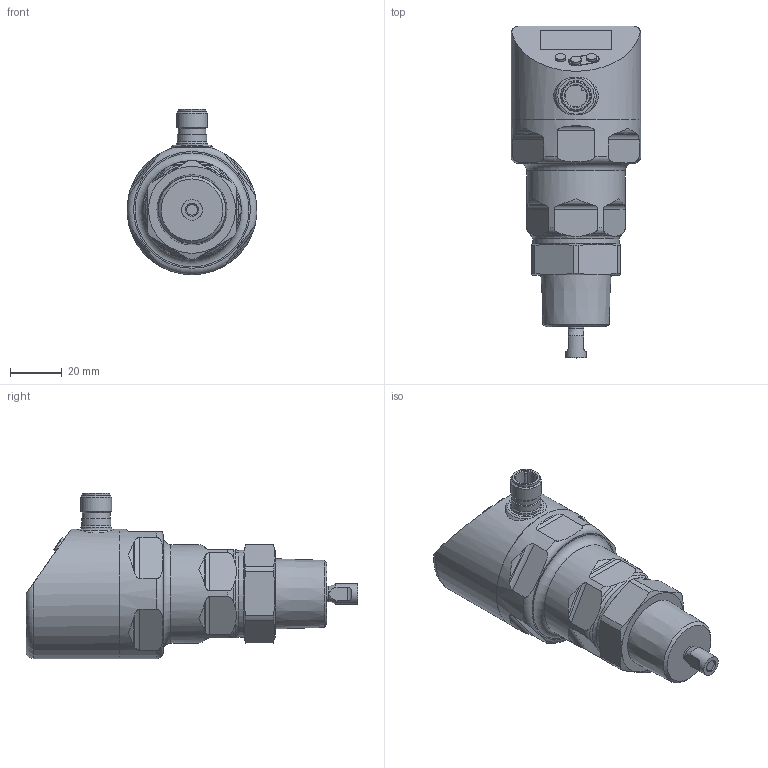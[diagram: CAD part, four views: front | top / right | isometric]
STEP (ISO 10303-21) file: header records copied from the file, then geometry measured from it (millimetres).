
FILE_DESCRIPTION( ( 'STEP AP203' ), ' ' );
FILE_NAME( 'p:/temp/worker_425/4668_2908/app_42_02017081510413309207430192d056f_000000_00_00_000000/format_1/LR2350.stp', '2017-08-15T08:41:35', ( '' ), ( '' ), ' ', 'PARTsolutions', ' ' );
FILE_SCHEMA( ( 'CONFIG_CONTROL_DESIGN' ) );
Length unit declared in the file: millimetre
Products named in the file (1): _LR2350
Bounding box: 50.1 x 128.25 x 63.9 mm (x, y, z)
Volume: 152928.4 mm3; surface area: 19010.6 mm2
Topology: 1 solids, 1 shells, 169 faces, 447 edges, 296 vertices
Faces by surface type: plane 82, cylinder 55, cone 20, torus 12
Full cylindrical faces by diameter (mm): 4.1 x3, 6 x1, 8 x1, 8.45 x1, 10.6 x1, 10.8 x1, 11.3 x1, 12 x2, 33.6 x1, 38 x1, 50 x1, 50.1 x1
Entity records: 6151 total; most frequent: CARTESIAN_POINT 2186, ORIENTED_EDGE 818, DIRECTION 769, EDGE_CURVE 409, AXIS2_PLACEMENT_3D 307, VERTEX_POINT 286, EDGE_LOOP 213, FACE_OUTER_BOUND 187
